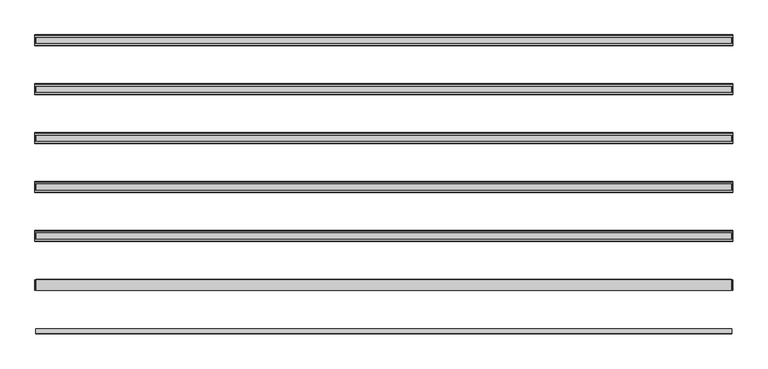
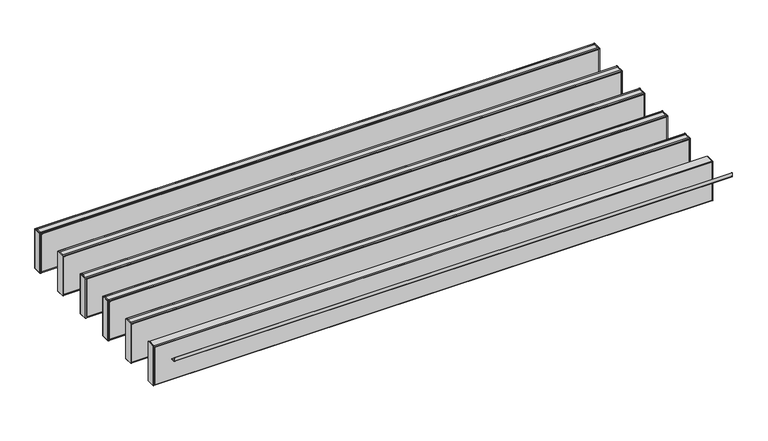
"""IFC4 building model written with IfcOpenShell, lengths in millimetres: proxy geometry, durlum_POLYLAM : durlum_POLYLAM 63 RV-L6."""

from ifc_helpers import new_model, si_unit, point, frame, frame_2d, origin, place, context, project, spatial, polyline, circle_curve, trimmed, segment, composite_curve, outline, extrude, source, transform, mapped, element, save
from ifc_brep_helpers import plane_surface, cylinder_surface, advanced_brep


def generic_models_28c25aac(model_context):
    return source(origin(), model_context, "Body", "SolidModel", [
        extrude(outline(composite_curve([segment(polyline([(2.0, 2079.9), (2.0, 2054.0)]), True, "CONTINUOUS"), segment(trimmed(circle_curve(frame_2d((4.0, 2054.0)), 2.0), [point((2.0, 2054.0))], [point((4.0, 2052.0))], True, "CARTESIAN"), True, "CONTINUOUS"), segment(polyline([(4.0, 2052.0), (29.9, 2052.0), (29.9, 2050.0), (4.0, 2050.0)]), True, "CONTINUOUS"), segment(trimmed(circle_curve(frame_2d((4.0, 2054.0)), 4.0), [point((4.0, 2050.0))], [point((0.0, 2054.0))], False, "CARTESIAN"), True, "CONTINUOUS"), segment(polyline([(0.0, 2054.0), (0.0, 2079.9), (2.0, 2079.9)]), True, "CONTINUOUS")], self_intersect=False)), frame((-1990.0, 0.0, 0.0), z_axis=(1.0, 0.0, 0.0), x_axis=(0.0, 1.0, 0.0)), (0.0, 0.0, 1.0), 3980.0),
        extrude(outline(polyline([(1993.0, 1710.5), (1995.0, 1710.5), (1995.0, 1649.5), (1993.0, 1649.5), (1993.0, 1710.5)])), frame((0.0, 0.0, 1717.9), z_axis=(0.0, 0.0, 1.0), x_axis=(1.0, 0.0, 0.0)), (0.0, 0.0, 1.0), 298.0),
        extrude(outline(polyline([(-1995.0, 1710.5), (-1993.0, 1710.5), (-1993.0, 1649.5), (-1995.0, 1649.5), (-1995.0, 1710.5)])), frame((0.0, 0.0, 1717.9), z_axis=(0.0, 0.0, 1.0), x_axis=(1.0, 0.0, 0.0)), (0.0, 0.0, 1.0), 298.0),
        extrude(outline(polyline([(1986.5, 1710.5), (1986.5, 1649.5), (-1986.5, 1649.5), (-1986.5, 1710.5), (1986.5, 1710.5)])), frame((0.0, 0.0, 1717.9), z_axis=(0.0, 0.0, 1.0), x_axis=(1.0, 0.0, 0.0)), (0.0, 0.0, 1.0), 298.0),
        extrude(outline(polyline([(1986.5, 1710.5), (-1986.5, 1710.5), (-1986.5, 1711.5), (1986.5, 1711.5), (1986.5, 1710.5)])), frame((0.0, 0.0, 1725.4), z_axis=(0.0, 0.0, 1.0), x_axis=(1.0, 0.0, 0.0)), (0.0, 0.0, 1.0), 283.0),
        extrude(outline(polyline([(1986.5, 1648.5), (-1986.5, 1648.5), (-1986.5, 1649.5), (1986.5, 1649.5), (1986.5, 1648.5)])), frame((0.0, 0.0, 1725.4), z_axis=(0.0, 0.0, 1.0), x_axis=(1.0, 0.0, 0.0)), (0.0, 0.0, 1.0), 283.0),
        advanced_brep(
        [(1995.0, 1709.5, 2016.9), (1995.0, 1699.5, 2016.9), (1995.0, 1699.5, 2015.9), (1995.0, 1710.5, 2015.9), (1995.0, 1710.5, 1717.9), (1995.0, 1649.5, 1717.9), (1995.0, 1649.5, 2015.8155735), (1995.0, 1660.5, 2015.8155735), (1995.0, 1660.5, 2016.9), (1995.0, 1650.5, 2016.9), (1995.0, 1648.5, 2014.9), (1995.0, 1648.5, 1718.9), (1995.0, 1650.5, 1716.9), (1995.0, 1709.5, 1716.9), (1995.0, 1711.5, 1718.9), (1995.0, 1711.5, 2014.9), (-1995.0, 1709.5, 2016.9), (-1995.0, 1711.5, 2014.9), (-1995.0, 1711.5, 1718.9), (-1995.0, 1709.5, 1716.9), (-1995.0, 1650.5, 1716.9), (-1995.0, 1648.5, 1718.9), (-1995.0, 1648.5, 2014.9), (-1995.0, 1650.5, 2016.9), (-1995.0, 1660.5, 2016.9), (-1995.0, 1660.5, 2015.8155735), (-1995.0, 1649.5, 2015.8155735), (-1995.0, 1649.5, 1717.9), (-1995.0, 1710.5, 1717.9), (-1995.0, 1710.5, 2015.9), (-1995.0, 1699.5, 2015.9), (-1995.0, 1699.5, 2016.9), (-1986.5, 1710.5, 2008.4), (1986.5, 1710.5, 2008.4), (1986.5, 1710.5, 1725.4), (-1986.5, 1710.5, 1725.4), (1986.5, 1649.5, 2008.4), (-1986.5, 1649.5, 2008.4), (-1986.5, 1649.5, 1725.4), (1986.5, 1649.5, 1725.4), (-1986.5, 1648.5, 2008.4), (1986.5, 1648.5, 2008.4), (1986.5, 1648.5, 1725.4), (-1986.5, 1648.5, 1725.4), (1986.5, 1711.5, 2008.4), (-1986.5, 1711.5, 2008.4), (-1986.5, 1711.5, 1725.4), (1986.5, 1711.5, 1725.4)],
        [
            (0, 1),
            (1, 2),
            (2, 3),
            (3, 4),
            (4, 5),
            (5, 6),
            (6, 7),
            (7, 8),
            (8, 9),
            (9, 10, circle_curve(frame((1995.0, 1650.5, 2014.9), z_axis=(1.0, 0.0, 0.0), x_axis=(0.0, 1.0, 0.0)), 2.0)),
            (10, 11),
            (11, 12, circle_curve(frame((1995.0, 1650.5, 1718.9), z_axis=(1.0, 0.0, 0.0), x_axis=(0.0, 1.0, 0.0)), 2.0)),
            (12, 13),
            (13, 14, circle_curve(frame((1995.0, 1709.5, 1718.9), z_axis=(1.0, 0.0, 0.0), x_axis=(0.0, 1.0, 0.0)), 2.0)),
            (14, 15),
            (15, 0, circle_curve(frame((1995.0, 1709.5, 2014.9), z_axis=(1.0, 0.0, 0.0), x_axis=(0.0, 1.0, 0.0)), 2.0)),
            (16, 17, circle_curve(frame((-1995.0, 1709.5, 2014.9), z_axis=(-1.0, 0.0, 0.0), x_axis=(0.0, 1.0, 0.0)), 2.0)),
            (17, 18),
            (18, 19, circle_curve(frame((-1995.0, 1709.5, 1718.9), z_axis=(-1.0, 0.0, 0.0), x_axis=(0.0, 1.0, 0.0)), 2.0)),
            (19, 20),
            (20, 21, circle_curve(frame((-1995.0, 1650.5, 1718.9), z_axis=(-1.0, 0.0, 0.0), x_axis=(0.0, 1.0, 0.0)), 2.0)),
            (21, 22),
            (22, 23, circle_curve(frame((-1995.0, 1650.5, 2014.9), z_axis=(-1.0, 0.0, 0.0), x_axis=(0.0, 1.0, 0.0)), 2.0)),
            (23, 24),
            (24, 25),
            (25, 26),
            (26, 27),
            (27, 28),
            (28, 29),
            (29, 30),
            (30, 31),
            (31, 16),
            (0, 16),
            (31, 1),
            (30, 2),
            (29, 3),
            (28, 4),
            (32, 33),
            (33, 34),
            (34, 35),
            (35, 32),
            (27, 5),
            (26, 6),
            (36, 37),
            (37, 38),
            (38, 39),
            (39, 36),
            (25, 7),
            (24, 8),
            (23, 9),
            (10, 22),
            (21, 11),
            (40, 41),
            (41, 42),
            (42, 43),
            (43, 40),
            (12, 20),
            (19, 13),
            (14, 18),
            (17, 15),
            (44, 45),
            (45, 46),
            (46, 47),
            (47, 44),
            (44, 33),
            (32, 45),
            (36, 41),
            (40, 37),
            (35, 46),
            (43, 38),
            (34, 47),
            (42, 39),
        ],
        [
            plane_surface(frame((1995.0, 1699.5, 2016.9), z_axis=(1.0, 0.0, 0.0), x_axis=(0.0, -1.0, 0.0))),
            plane_surface(frame((-1995.0, 1699.5, 2016.9), z_axis=(-1.0, 0.0, 0.0), x_axis=(0.0, 1.0, 0.0))),
            plane_surface(frame((1995.0, 1709.5, 2016.9), z_axis=(0.0, 0.0, 1.0), x_axis=(-1.0, 0.0, 0.0))),
            plane_surface(frame((1995.0, 1699.5, 2016.9), z_axis=(0.0, -1.0, 0.0), x_axis=(-1.0, 0.0, 0.0))),
            plane_surface(frame((1995.0, 1699.5, 2015.9), z_axis=(0.0, 0.0, -1.0), x_axis=(-1.0, 0.0, 0.0))),
            plane_surface(frame((1995.0, 1710.5, 2015.9), z_axis=(0.0, -1.0, 0.0), x_axis=(-1.0, 0.0, 0.0))),
            plane_surface(frame((1995.0, 1710.5, 1717.9), z_axis=(0.0, 0.0, 1.0), x_axis=(-1.0, 0.0, 0.0))),
            plane_surface(frame((1995.0, 1649.5, 1717.9), z_axis=(0.0, 1.0, 0.0), x_axis=(-1.0, 0.0, 0.0))),
            plane_surface(frame((1995.0, 1649.5, 2015.8155735), z_axis=(0.0, 0.0, -1.0), x_axis=(-1.0, 0.0, 0.0))),
            plane_surface(frame((1995.0, 1660.5, 2015.8155735), z_axis=(0.0, 1.0, 0.0), x_axis=(-1.0, 0.0, 0.0))),
            plane_surface(frame((1995.0, 1660.5, 2016.9), z_axis=(0.0, 0.0, 1.0), x_axis=(-1.0, 0.0, 0.0))),
            plane_surface(frame((1995.0, 1648.5, 2014.9), z_axis=(0.0, -1.0, 0.0), x_axis=(-1.0, 0.0, 0.0))),
            plane_surface(frame((1995.0, 1650.5, 1716.9), z_axis=(0.0, 0.0, -1.0), x_axis=(-1.0, 0.0, 0.0))),
            plane_surface(frame((1995.0, 1711.5, 1718.9), z_axis=(0.0, 1.0, 0.0), x_axis=(-1.0, 0.0, 0.0))),
            cylinder_surface(frame((-1995.0, 1650.5, 2014.9), z_axis=(1.0, 0.0, 0.0), x_axis=(0.0, 1.0, 0.0)), 2.0),
            cylinder_surface(frame((-1995.0, 1650.5, 1718.9), z_axis=(1.0, 0.0, 0.0), x_axis=(0.0, 1.0, 0.0)), 2.0),
            cylinder_surface(frame((-1995.0, 1709.5, 1718.9), z_axis=(1.0, 0.0, 0.0), x_axis=(0.0, 1.0, 0.0)), 2.0),
            cylinder_surface(frame((-1995.0, 1709.5, 2014.9), z_axis=(1.0, 0.0, 0.0), x_axis=(0.0, 1.0, 0.0)), 2.0),
            plane_surface(frame((1986.5, 1648.5, 2008.4), z_axis=(0.0, 0.0, -1.0), x_axis=(0.0, 1.0, 0.0))),
            plane_surface(frame((-1986.5, 1648.5, 2008.4), z_axis=(1.0, 0.0, 0.0), x_axis=(0.0, 1.0, 0.0))),
            plane_surface(frame((-1986.5, 1648.5, 1725.4), z_axis=(0.0, 0.0, 1.0), x_axis=(0.0, 1.0, 0.0))),
            plane_surface(frame((1986.5, 1648.5, 1725.4), z_axis=(-1.0, 0.0, 0.0), x_axis=(0.0, 1.0, 0.0))),
        ],
        [
            (0, [[1, 2, 3, 4, 5, 6, 7, 8, 9, 10, 11, 12, 13, 14, 15, 16]]),
            (1, [[17, 18, 19, 20, 21, 22, 23, 24, 25, 26, 27, 28, 29, 30, 31, 32]]),
            (2, [[-1, 33, -32, 34]]),
            (3, [[-2, -34, -31, 35]]),
            (4, [[-3, -35, -30, 36]]),
            (5, [[-4, -36, -29, 37], [38, 39, 40, 41]]),
            (6, [[-5, -37, -28, 42]]),
            (7, [[-6, -42, -27, 43], [44, 45, 46, 47]]),
            (8, [[-7, -43, -26, 48]]),
            (9, [[-8, -48, -25, 49]]),
            (10, [[-9, -49, -24, 50]]),
            (11, [[-11, 51, -22, 52], [53, 54, 55, 56]]),
            (12, [[-13, 57, -20, 58]]),
            (13, [[-15, 59, -18, 60], [61, 62, 63, 64]]),
            (14, [[-10, -50, -23, -51]]),
            (15, [[-12, -52, -21, -57]]),
            (16, [[-14, -58, -19, -59]]),
            (17, [[-16, -60, -17, -33]]),
            (18, [[65, -38, 66, -61]]),
            (18, [[67, -53, 68, -44]]),
            (19, [[-66, -41, 69, -62]]),
            (19, [[-68, -56, 70, -45]]),
            (20, [[-69, -40, 71, -63]]),
            (20, [[-70, -55, 72, -46]]),
            (21, [[-65, -64, -71, -39]]),
            (21, [[-67, -47, -72, -54]]),
        ],
    ),
        extrude(outline(polyline([(1993.0, 1430.5), (1995.0, 1430.5), (1995.0, 1369.5), (1993.0, 1369.5), (1993.0, 1430.5)])), frame((0.0, 0.0, 1717.9), z_axis=(0.0, 0.0, 1.0), x_axis=(1.0, 0.0, 0.0)), (0.0, 0.0, 1.0), 298.0),
        extrude(outline(polyline([(-1995.0, 1430.5), (-1993.0, 1430.5), (-1993.0, 1369.5), (-1995.0, 1369.5), (-1995.0, 1430.5)])), frame((0.0, 0.0, 1717.9), z_axis=(0.0, 0.0, 1.0), x_axis=(1.0, 0.0, 0.0)), (0.0, 0.0, 1.0), 298.0),
        extrude(outline(polyline([(1986.5, 1430.5), (1986.5, 1369.5), (-1986.5, 1369.5), (-1986.5, 1430.5), (1986.5, 1430.5)])), frame((0.0, 0.0, 1717.9), z_axis=(0.0, 0.0, 1.0), x_axis=(1.0, 0.0, 0.0)), (0.0, 0.0, 1.0), 298.0),
        extrude(outline(polyline([(1986.5, 1430.5), (-1986.5, 1430.5), (-1986.5, 1431.5), (1986.5, 1431.5), (1986.5, 1430.5)])), frame((0.0, 0.0, 1725.4), z_axis=(0.0, 0.0, 1.0), x_axis=(1.0, 0.0, 0.0)), (0.0, 0.0, 1.0), 283.0),
        extrude(outline(polyline([(1986.5, 1368.5), (-1986.5, 1368.5), (-1986.5, 1369.5), (1986.5, 1369.5), (1986.5, 1368.5)])), frame((0.0, 0.0, 1725.4), z_axis=(0.0, 0.0, 1.0), x_axis=(1.0, 0.0, 0.0)), (0.0, 0.0, 1.0), 283.0),
        advanced_brep(
        [(1995.0, 1429.5, 2016.9), (1995.0, 1419.5, 2016.9), (1995.0, 1419.5, 2015.9), (1995.0, 1430.5, 2015.9), (1995.0, 1430.5, 1717.9), (1995.0, 1369.5, 1717.9), (1995.0, 1369.5, 2015.8155735), (1995.0, 1380.5, 2015.8155735), (1995.0, 1380.5, 2016.9), (1995.0, 1370.5, 2016.9), (1995.0, 1368.5, 2014.9), (1995.0, 1368.5, 1718.9), (1995.0, 1370.5, 1716.9), (1995.0, 1429.5, 1716.9), (1995.0, 1431.5, 1718.9), (1995.0, 1431.5, 2014.9), (-1995.0, 1429.5, 2016.9), (-1995.0, 1431.5, 2014.9), (-1995.0, 1431.5, 1718.9), (-1995.0, 1429.5, 1716.9), (-1995.0, 1370.5, 1716.9), (-1995.0, 1368.5, 1718.9), (-1995.0, 1368.5, 2014.9), (-1995.0, 1370.5, 2016.9), (-1995.0, 1380.5, 2016.9), (-1995.0, 1380.5, 2015.8155735), (-1995.0, 1369.5, 2015.8155735), (-1995.0, 1369.5, 1717.9), (-1995.0, 1430.5, 1717.9), (-1995.0, 1430.5, 2015.9), (-1995.0, 1419.5, 2015.9), (-1995.0, 1419.5, 2016.9), (-1986.5, 1430.5, 2008.4), (1986.5, 1430.5, 2008.4), (1986.5, 1430.5, 1725.4), (-1986.5, 1430.5, 1725.4), (1986.5, 1369.5, 2008.4), (-1986.5, 1369.5, 2008.4), (-1986.5, 1369.5, 1725.4), (1986.5, 1369.5, 1725.4), (-1986.5, 1368.5, 2008.4), (1986.5, 1368.5, 2008.4), (1986.5, 1368.5, 1725.4), (-1986.5, 1368.5, 1725.4), (1986.5, 1431.5, 2008.4), (-1986.5, 1431.5, 2008.4), (-1986.5, 1431.5, 1725.4), (1986.5, 1431.5, 1725.4)],
        [
            (0, 1),
            (1, 2),
            (2, 3),
            (3, 4),
            (4, 5),
            (5, 6),
            (6, 7),
            (7, 8),
            (8, 9),
            (9, 10, circle_curve(frame((1995.0, 1370.5, 2014.9), z_axis=(1.0, 0.0, 0.0), x_axis=(0.0, 1.0, 0.0)), 2.0)),
            (10, 11),
            (11, 12, circle_curve(frame((1995.0, 1370.5, 1718.9), z_axis=(1.0, 0.0, 0.0), x_axis=(0.0, 1.0, 0.0)), 2.0)),
            (12, 13),
            (13, 14, circle_curve(frame((1995.0, 1429.5, 1718.9), z_axis=(1.0, 0.0, 0.0), x_axis=(0.0, 1.0, 0.0)), 2.0)),
            (14, 15),
            (15, 0, circle_curve(frame((1995.0, 1429.5, 2014.9), z_axis=(1.0, 0.0, 0.0), x_axis=(0.0, 1.0, 0.0)), 2.0)),
            (16, 17, circle_curve(frame((-1995.0, 1429.5, 2014.9), z_axis=(-1.0, 0.0, 0.0), x_axis=(0.0, 1.0, 0.0)), 2.0)),
            (17, 18),
            (18, 19, circle_curve(frame((-1995.0, 1429.5, 1718.9), z_axis=(-1.0, 0.0, 0.0), x_axis=(0.0, 1.0, 0.0)), 2.0)),
            (19, 20),
            (20, 21, circle_curve(frame((-1995.0, 1370.5, 1718.9), z_axis=(-1.0, 0.0, 0.0), x_axis=(0.0, 1.0, 0.0)), 2.0)),
            (21, 22),
            (22, 23, circle_curve(frame((-1995.0, 1370.5, 2014.9), z_axis=(-1.0, 0.0, 0.0), x_axis=(0.0, 1.0, 0.0)), 2.0)),
            (23, 24),
            (24, 25),
            (25, 26),
            (26, 27),
            (27, 28),
            (28, 29),
            (29, 30),
            (30, 31),
            (31, 16),
            (0, 16),
            (31, 1),
            (30, 2),
            (29, 3),
            (28, 4),
            (32, 33),
            (33, 34),
            (34, 35),
            (35, 32),
            (27, 5),
            (26, 6),
            (36, 37),
            (37, 38),
            (38, 39),
            (39, 36),
            (25, 7),
            (24, 8),
            (23, 9),
            (10, 22),
            (21, 11),
            (40, 41),
            (41, 42),
            (42, 43),
            (43, 40),
            (12, 20),
            (19, 13),
            (14, 18),
            (17, 15),
            (44, 45),
            (45, 46),
            (46, 47),
            (47, 44),
            (44, 33),
            (32, 45),
            (36, 41),
            (40, 37),
            (35, 46),
            (43, 38),
            (34, 47),
            (42, 39),
        ],
        [
            plane_surface(frame((1995.0, 1419.5, 2016.9), z_axis=(1.0, 0.0, 0.0), x_axis=(0.0, -1.0, 0.0))),
            plane_surface(frame((-1995.0, 1419.5, 2016.9), z_axis=(-1.0, 0.0, 0.0), x_axis=(0.0, 1.0, 0.0))),
            plane_surface(frame((1995.0, 1429.5, 2016.9), z_axis=(0.0, 0.0, 1.0), x_axis=(-1.0, 0.0, 0.0))),
            plane_surface(frame((1995.0, 1419.5, 2016.9), z_axis=(0.0, -1.0, 0.0), x_axis=(-1.0, 0.0, 0.0))),
            plane_surface(frame((1995.0, 1419.5, 2015.9), z_axis=(0.0, 0.0, -1.0), x_axis=(-1.0, 0.0, 0.0))),
            plane_surface(frame((1995.0, 1430.5, 2015.9), z_axis=(0.0, -1.0, 0.0), x_axis=(-1.0, 0.0, 0.0))),
            plane_surface(frame((1995.0, 1430.5, 1717.9), z_axis=(0.0, 0.0, 1.0), x_axis=(-1.0, 0.0, 0.0))),
            plane_surface(frame((1995.0, 1369.5, 1717.9), z_axis=(0.0, 1.0, 0.0), x_axis=(-1.0, 0.0, 0.0))),
            plane_surface(frame((1995.0, 1369.5, 2015.8155735), z_axis=(0.0, 0.0, -1.0), x_axis=(-1.0, 0.0, 0.0))),
            plane_surface(frame((1995.0, 1380.5, 2015.8155735), z_axis=(0.0, 1.0, 0.0), x_axis=(-1.0, 0.0, 0.0))),
            plane_surface(frame((1995.0, 1380.5, 2016.9), z_axis=(0.0, 0.0, 1.0), x_axis=(-1.0, 0.0, 0.0))),
            plane_surface(frame((1995.0, 1368.5, 2014.9), z_axis=(0.0, -1.0, 0.0), x_axis=(-1.0, 0.0, 0.0))),
            plane_surface(frame((1995.0, 1370.5, 1716.9), z_axis=(0.0, 0.0, -1.0), x_axis=(-1.0, 0.0, 0.0))),
            plane_surface(frame((1995.0, 1431.5, 1718.9), z_axis=(0.0, 1.0, 0.0), x_axis=(-1.0, 0.0, 0.0))),
            cylinder_surface(frame((-1995.0, 1370.5, 2014.9), z_axis=(1.0, 0.0, 0.0), x_axis=(0.0, 1.0, 0.0)), 2.0),
            cylinder_surface(frame((-1995.0, 1370.5, 1718.9), z_axis=(1.0, 0.0, 0.0), x_axis=(0.0, 1.0, 0.0)), 2.0),
            cylinder_surface(frame((-1995.0, 1429.5, 1718.9), z_axis=(1.0, 0.0, 0.0), x_axis=(0.0, 1.0, 0.0)), 2.0),
            cylinder_surface(frame((-1995.0, 1429.5, 2014.9), z_axis=(1.0, 0.0, 0.0), x_axis=(0.0, 1.0, 0.0)), 2.0),
            plane_surface(frame((1986.5, 1368.5, 2008.4), z_axis=(0.0, 0.0, -1.0), x_axis=(0.0, 1.0, 0.0))),
            plane_surface(frame((-1986.5, 1368.5, 2008.4), z_axis=(1.0, 0.0, 0.0), x_axis=(0.0, 1.0, 0.0))),
            plane_surface(frame((-1986.5, 1368.5, 1725.4), z_axis=(0.0, 0.0, 1.0), x_axis=(0.0, 1.0, 0.0))),
            plane_surface(frame((1986.5, 1368.5, 1725.4), z_axis=(-1.0, 0.0, 0.0), x_axis=(0.0, 1.0, 0.0))),
        ],
        [
            (0, [[1, 2, 3, 4, 5, 6, 7, 8, 9, 10, 11, 12, 13, 14, 15, 16]]),
            (1, [[17, 18, 19, 20, 21, 22, 23, 24, 25, 26, 27, 28, 29, 30, 31, 32]]),
            (2, [[-1, 33, -32, 34]]),
            (3, [[-2, -34, -31, 35]]),
            (4, [[-3, -35, -30, 36]]),
            (5, [[-4, -36, -29, 37], [38, 39, 40, 41]]),
            (6, [[-5, -37, -28, 42]]),
            (7, [[-6, -42, -27, 43], [44, 45, 46, 47]]),
            (8, [[-7, -43, -26, 48]]),
            (9, [[-8, -48, -25, 49]]),
            (10, [[-9, -49, -24, 50]]),
            (11, [[-11, 51, -22, 52], [53, 54, 55, 56]]),
            (12, [[-13, 57, -20, 58]]),
            (13, [[-15, 59, -18, 60], [61, 62, 63, 64]]),
            (14, [[-10, -50, -23, -51]]),
            (15, [[-12, -52, -21, -57]]),
            (16, [[-14, -58, -19, -59]]),
            (17, [[-16, -60, -17, -33]]),
            (18, [[65, -38, 66, -61]]),
            (18, [[67, -53, 68, -44]]),
            (19, [[-66, -41, 69, -62]]),
            (19, [[-68, -56, 70, -45]]),
            (20, [[-69, -40, 71, -63]]),
            (20, [[-70, -55, 72, -46]]),
            (21, [[-65, -64, -71, -39]]),
            (21, [[-67, -47, -72, -54]]),
        ],
    ),
        extrude(outline(polyline([(1993.0, 1150.5), (1995.0, 1150.5), (1995.0, 1089.5), (1993.0, 1089.5), (1993.0, 1150.5)])), frame((0.0, 0.0, 1717.9), z_axis=(0.0, 0.0, 1.0), x_axis=(1.0, 0.0, 0.0)), (0.0, 0.0, 1.0), 298.0),
        extrude(outline(polyline([(-1995.0, 1150.5), (-1993.0, 1150.5), (-1993.0, 1089.5), (-1995.0, 1089.5), (-1995.0, 1150.5)])), frame((0.0, 0.0, 1717.9), z_axis=(0.0, 0.0, 1.0), x_axis=(1.0, 0.0, 0.0)), (0.0, 0.0, 1.0), 298.0),
        extrude(outline(polyline([(1986.5, 1150.5), (1986.5, 1089.5), (-1986.5, 1089.5), (-1986.5, 1150.5), (1986.5, 1150.5)])), frame((0.0, 0.0, 1717.9), z_axis=(0.0, 0.0, 1.0), x_axis=(1.0, 0.0, 0.0)), (0.0, 0.0, 1.0), 298.0),
        extrude(outline(polyline([(1986.5, 1150.5), (-1986.5, 1150.5), (-1986.5, 1151.5), (1986.5, 1151.5), (1986.5, 1150.5)])), frame((0.0, 0.0, 1725.4), z_axis=(0.0, 0.0, 1.0), x_axis=(1.0, 0.0, 0.0)), (0.0, 0.0, 1.0), 283.0),
        extrude(outline(polyline([(1986.5, 1088.5), (-1986.5, 1088.5), (-1986.5, 1089.5), (1986.5, 1089.5), (1986.5, 1088.5)])), frame((0.0, 0.0, 1725.4), z_axis=(0.0, 0.0, 1.0), x_axis=(1.0, 0.0, 0.0)), (0.0, 0.0, 1.0), 283.0),
        advanced_brep(
        [(1995.0, 1149.5, 2016.9), (1995.0, 1139.5, 2016.9), (1995.0, 1139.5, 2015.9), (1995.0, 1150.5, 2015.9), (1995.0, 1150.5, 1717.9), (1995.0, 1089.5, 1717.9), (1995.0, 1089.5, 2015.8155735), (1995.0, 1100.5, 2015.8155735), (1995.0, 1100.5, 2016.9), (1995.0, 1090.5, 2016.9), (1995.0, 1088.5, 2014.9), (1995.0, 1088.5, 1718.9), (1995.0, 1090.5, 1716.9), (1995.0, 1149.5, 1716.9), (1995.0, 1151.5, 1718.9), (1995.0, 1151.5, 2014.9), (-1995.0, 1149.5, 2016.9), (-1995.0, 1151.5, 2014.9), (-1995.0, 1151.5, 1718.9), (-1995.0, 1149.5, 1716.9), (-1995.0, 1090.5, 1716.9), (-1995.0, 1088.5, 1718.9), (-1995.0, 1088.5, 2014.9), (-1995.0, 1090.5, 2016.9), (-1995.0, 1100.5, 2016.9), (-1995.0, 1100.5, 2015.8155735), (-1995.0, 1089.5, 2015.8155735), (-1995.0, 1089.5, 1717.9), (-1995.0, 1150.5, 1717.9), (-1995.0, 1150.5, 2015.9), (-1995.0, 1139.5, 2015.9), (-1995.0, 1139.5, 2016.9), (-1986.5, 1150.5, 2008.4), (1986.5, 1150.5, 2008.4), (1986.5, 1150.5, 1725.4), (-1986.5, 1150.5, 1725.4), (1986.5, 1089.5, 2008.4), (-1986.5, 1089.5, 2008.4), (-1986.5, 1089.5, 1725.4), (1986.5, 1089.5, 1725.4), (-1986.5, 1088.5, 2008.4), (1986.5, 1088.5, 2008.4), (1986.5, 1088.5, 1725.4), (-1986.5, 1088.5, 1725.4), (1986.5, 1151.5, 2008.4), (-1986.5, 1151.5, 2008.4), (-1986.5, 1151.5, 1725.4), (1986.5, 1151.5, 1725.4)],
        [
            (0, 1),
            (1, 2),
            (2, 3),
            (3, 4),
            (4, 5),
            (5, 6),
            (6, 7),
            (7, 8),
            (8, 9),
            (9, 10, circle_curve(frame((1995.0, 1090.5, 2014.9), z_axis=(1.0, 0.0, 0.0), x_axis=(0.0, 1.0, 0.0)), 2.0)),
            (10, 11),
            (11, 12, circle_curve(frame((1995.0, 1090.5, 1718.9), z_axis=(1.0, 0.0, 0.0), x_axis=(0.0, 1.0, 0.0)), 2.0)),
            (12, 13),
            (13, 14, circle_curve(frame((1995.0, 1149.5, 1718.9), z_axis=(1.0, 0.0, 0.0), x_axis=(0.0, 1.0, 0.0)), 2.0)),
            (14, 15),
            (15, 0, circle_curve(frame((1995.0, 1149.5, 2014.9), z_axis=(1.0, 0.0, 0.0), x_axis=(0.0, 1.0, 0.0)), 2.0)),
            (16, 17, circle_curve(frame((-1995.0, 1149.5, 2014.9), z_axis=(-1.0, 0.0, 0.0), x_axis=(0.0, 1.0, 0.0)), 2.0)),
            (17, 18),
            (18, 19, circle_curve(frame((-1995.0, 1149.5, 1718.9), z_axis=(-1.0, 0.0, 0.0), x_axis=(0.0, 1.0, 0.0)), 2.0)),
            (19, 20),
            (20, 21, circle_curve(frame((-1995.0, 1090.5, 1718.9), z_axis=(-1.0, 0.0, 0.0), x_axis=(0.0, 1.0, 0.0)), 2.0)),
            (21, 22),
            (22, 23, circle_curve(frame((-1995.0, 1090.5, 2014.9), z_axis=(-1.0, 0.0, 0.0), x_axis=(0.0, 1.0, 0.0)), 2.0)),
            (23, 24),
            (24, 25),
            (25, 26),
            (26, 27),
            (27, 28),
            (28, 29),
            (29, 30),
            (30, 31),
            (31, 16),
            (0, 16),
            (31, 1),
            (30, 2),
            (29, 3),
            (28, 4),
            (32, 33),
            (33, 34),
            (34, 35),
            (35, 32),
            (27, 5),
            (26, 6),
            (36, 37),
            (37, 38),
            (38, 39),
            (39, 36),
            (25, 7),
            (24, 8),
            (23, 9),
            (10, 22),
            (21, 11),
            (40, 41),
            (41, 42),
            (42, 43),
            (43, 40),
            (12, 20),
            (19, 13),
            (14, 18),
            (17, 15),
            (44, 45),
            (45, 46),
            (46, 47),
            (47, 44),
            (44, 33),
            (32, 45),
            (36, 41),
            (40, 37),
            (35, 46),
            (43, 38),
            (34, 47),
            (42, 39),
        ],
        [
            plane_surface(frame((1995.0, 1139.5, 2016.9), z_axis=(1.0, 0.0, 0.0), x_axis=(0.0, -1.0, 0.0))),
            plane_surface(frame((-1995.0, 1139.5, 2016.9), z_axis=(-1.0, 0.0, 0.0), x_axis=(0.0, 1.0, 0.0))),
            plane_surface(frame((1995.0, 1149.5, 2016.9), z_axis=(0.0, 0.0, 1.0), x_axis=(-1.0, 0.0, 0.0))),
            plane_surface(frame((1995.0, 1139.5, 2016.9), z_axis=(0.0, -1.0, 0.0), x_axis=(-1.0, 0.0, 0.0))),
            plane_surface(frame((1995.0, 1139.5, 2015.9), z_axis=(0.0, 0.0, -1.0), x_axis=(-1.0, 0.0, 0.0))),
            plane_surface(frame((1995.0, 1150.5, 2015.9), z_axis=(0.0, -1.0, 0.0), x_axis=(-1.0, 0.0, 0.0))),
            plane_surface(frame((1995.0, 1150.5, 1717.9), z_axis=(0.0, 0.0, 1.0), x_axis=(-1.0, 0.0, 0.0))),
            plane_surface(frame((1995.0, 1089.5, 1717.9), z_axis=(0.0, 1.0, 0.0), x_axis=(-1.0, 0.0, 0.0))),
            plane_surface(frame((1995.0, 1089.5, 2015.8155735), z_axis=(0.0, 0.0, -1.0), x_axis=(-1.0, 0.0, 0.0))),
            plane_surface(frame((1995.0, 1100.5, 2015.8155735), z_axis=(0.0, 1.0, 0.0), x_axis=(-1.0, 0.0, 0.0))),
            plane_surface(frame((1995.0, 1100.5, 2016.9), z_axis=(0.0, 0.0, 1.0), x_axis=(-1.0, 0.0, 0.0))),
            plane_surface(frame((1995.0, 1088.5, 2014.9), z_axis=(0.0, -1.0, 0.0), x_axis=(-1.0, 0.0, 0.0))),
            plane_surface(frame((1995.0, 1090.5, 1716.9), z_axis=(0.0, 0.0, -1.0), x_axis=(-1.0, 0.0, 0.0))),
            plane_surface(frame((1995.0, 1151.5, 1718.9), z_axis=(0.0, 1.0, 0.0), x_axis=(-1.0, 0.0, 0.0))),
            cylinder_surface(frame((-1995.0, 1090.5, 2014.9), z_axis=(1.0, 0.0, 0.0), x_axis=(0.0, 1.0, 0.0)), 2.0),
            cylinder_surface(frame((-1995.0, 1090.5, 1718.9), z_axis=(1.0, 0.0, 0.0), x_axis=(0.0, 1.0, 0.0)), 2.0),
            cylinder_surface(frame((-1995.0, 1149.5, 1718.9), z_axis=(1.0, 0.0, 0.0), x_axis=(0.0, 1.0, 0.0)), 2.0),
            cylinder_surface(frame((-1995.0, 1149.5, 2014.9), z_axis=(1.0, 0.0, 0.0), x_axis=(0.0, 1.0, 0.0)), 2.0),
            plane_surface(frame((1986.5, 1088.5, 2008.4), z_axis=(0.0, 0.0, -1.0), x_axis=(0.0, 1.0, 0.0))),
            plane_surface(frame((-1986.5, 1088.5, 2008.4), z_axis=(1.0, 0.0, 0.0), x_axis=(0.0, 1.0, 0.0))),
            plane_surface(frame((-1986.5, 1088.5, 1725.4), z_axis=(0.0, 0.0, 1.0), x_axis=(0.0, 1.0, 0.0))),
            plane_surface(frame((1986.5, 1088.5, 1725.4), z_axis=(-1.0, 0.0, 0.0), x_axis=(0.0, 1.0, 0.0))),
        ],
        [
            (0, [[1, 2, 3, 4, 5, 6, 7, 8, 9, 10, 11, 12, 13, 14, 15, 16]]),
            (1, [[17, 18, 19, 20, 21, 22, 23, 24, 25, 26, 27, 28, 29, 30, 31, 32]]),
            (2, [[-1, 33, -32, 34]]),
            (3, [[-2, -34, -31, 35]]),
            (4, [[-3, -35, -30, 36]]),
            (5, [[-4, -36, -29, 37], [38, 39, 40, 41]]),
            (6, [[-5, -37, -28, 42]]),
            (7, [[-6, -42, -27, 43], [44, 45, 46, 47]]),
            (8, [[-7, -43, -26, 48]]),
            (9, [[-8, -48, -25, 49]]),
            (10, [[-9, -49, -24, 50]]),
            (11, [[-11, 51, -22, 52], [53, 54, 55, 56]]),
            (12, [[-13, 57, -20, 58]]),
            (13, [[-15, 59, -18, 60], [61, 62, 63, 64]]),
            (14, [[-10, -50, -23, -51]]),
            (15, [[-12, -52, -21, -57]]),
            (16, [[-14, -58, -19, -59]]),
            (17, [[-16, -60, -17, -33]]),
            (18, [[65, -38, 66, -61]]),
            (18, [[67, -53, 68, -44]]),
            (19, [[-66, -41, 69, -62]]),
            (19, [[-68, -56, 70, -45]]),
            (20, [[-69, -40, 71, -63]]),
            (20, [[-70, -55, 72, -46]]),
            (21, [[-65, -64, -71, -39]]),
            (21, [[-67, -47, -72, -54]]),
        ],
    ),
        extrude(outline(polyline([(1993.0, 870.5), (1995.0, 870.5), (1995.0, 809.5), (1993.0, 809.5), (1993.0, 870.5)])), frame((0.0, 0.0, 1717.9), z_axis=(0.0, 0.0, 1.0), x_axis=(1.0, 0.0, 0.0)), (0.0, 0.0, 1.0), 298.0),
        extrude(outline(polyline([(-1995.0, 870.5), (-1993.0, 870.5), (-1993.0, 809.5), (-1995.0, 809.5), (-1995.0, 870.5)])), frame((0.0, 0.0, 1717.9), z_axis=(0.0, 0.0, 1.0), x_axis=(1.0, 0.0, 0.0)), (0.0, 0.0, 1.0), 298.0),
        extrude(outline(polyline([(1986.5, 870.5), (1986.5, 809.5), (-1986.5, 809.5), (-1986.5, 870.5), (1986.5, 870.5)])), frame((0.0, 0.0, 1717.9), z_axis=(0.0, 0.0, 1.0), x_axis=(1.0, 0.0, 0.0)), (0.0, 0.0, 1.0), 298.0),
        extrude(outline(polyline([(1986.5, 870.5), (-1986.5, 870.5), (-1986.5, 871.5), (1986.5, 871.5), (1986.5, 870.5)])), frame((0.0, 0.0, 1725.4), z_axis=(0.0, 0.0, 1.0), x_axis=(1.0, 0.0, 0.0)), (0.0, 0.0, 1.0), 283.0),
        extrude(outline(polyline([(1986.5, 808.5), (-1986.5, 808.5), (-1986.5, 809.5), (1986.5, 809.5), (1986.5, 808.5)])), frame((0.0, 0.0, 1725.4), z_axis=(0.0, 0.0, 1.0), x_axis=(1.0, 0.0, 0.0)), (0.0, 0.0, 1.0), 283.0),
        advanced_brep(
        [(1995.0, 869.5, 2016.9), (1995.0, 859.5, 2016.9), (1995.0, 859.5, 2015.9), (1995.0, 870.5, 2015.9), (1995.0, 870.5, 1717.9), (1995.0, 809.5, 1717.9), (1995.0, 809.5, 2015.8155735), (1995.0, 820.5, 2015.8155735), (1995.0, 820.5, 2016.9), (1995.0, 810.5, 2016.9), (1995.0, 808.5, 2014.9), (1995.0, 808.5, 1718.9), (1995.0, 810.5, 1716.9), (1995.0, 869.5, 1716.9), (1995.0, 871.5, 1718.9), (1995.0, 871.5, 2014.9), (-1995.0, 869.5, 2016.9), (-1995.0, 871.5, 2014.9), (-1995.0, 871.5, 1718.9), (-1995.0, 869.5, 1716.9), (-1995.0, 810.5, 1716.9), (-1995.0, 808.5, 1718.9), (-1995.0, 808.5, 2014.9), (-1995.0, 810.5, 2016.9), (-1995.0, 820.5, 2016.9), (-1995.0, 820.5, 2015.8155735), (-1995.0, 809.5, 2015.8155735), (-1995.0, 809.5, 1717.9), (-1995.0, 870.5, 1717.9), (-1995.0, 870.5, 2015.9), (-1995.0, 859.5, 2015.9), (-1995.0, 859.5, 2016.9), (-1986.5, 870.5, 2008.4), (1986.5, 870.5, 2008.4), (1986.5, 870.5, 1725.4), (-1986.5, 870.5, 1725.4), (1986.5, 809.5, 2008.4), (-1986.5, 809.5, 2008.4), (-1986.5, 809.5, 1725.4), (1986.5, 809.5, 1725.4), (-1986.5, 808.5, 2008.4), (1986.5, 808.5, 2008.4), (1986.5, 808.5, 1725.4), (-1986.5, 808.5, 1725.4), (1986.5, 871.5, 2008.4), (-1986.5, 871.5, 2008.4), (-1986.5, 871.5, 1725.4), (1986.5, 871.5, 1725.4)],
        [
            (0, 1),
            (1, 2),
            (2, 3),
            (3, 4),
            (4, 5),
            (5, 6),
            (6, 7),
            (7, 8),
            (8, 9),
            (9, 10, circle_curve(frame((1995.0, 810.5, 2014.9), z_axis=(1.0, 0.0, 0.0), x_axis=(0.0, 1.0, 0.0)), 2.0)),
            (10, 11),
            (11, 12, circle_curve(frame((1995.0, 810.5, 1718.9), z_axis=(1.0, 0.0, 0.0), x_axis=(0.0, 1.0, 0.0)), 2.0)),
            (12, 13),
            (13, 14, circle_curve(frame((1995.0, 869.5, 1718.9), z_axis=(1.0, 0.0, 0.0), x_axis=(0.0, 1.0, 0.0)), 2.0)),
            (14, 15),
            (15, 0, circle_curve(frame((1995.0, 869.5, 2014.9), z_axis=(1.0, 0.0, 0.0), x_axis=(0.0, 1.0, 0.0)), 2.0)),
            (16, 17, circle_curve(frame((-1995.0, 869.5, 2014.9), z_axis=(-1.0, 0.0, 0.0), x_axis=(0.0, 1.0, 0.0)), 2.0)),
            (17, 18),
            (18, 19, circle_curve(frame((-1995.0, 869.5, 1718.9), z_axis=(-1.0, 0.0, 0.0), x_axis=(0.0, 1.0, 0.0)), 2.0)),
            (19, 20),
            (20, 21, circle_curve(frame((-1995.0, 810.5, 1718.9), z_axis=(-1.0, 0.0, 0.0), x_axis=(0.0, 1.0, 0.0)), 2.0)),
            (21, 22),
            (22, 23, circle_curve(frame((-1995.0, 810.5, 2014.9), z_axis=(-1.0, 0.0, 0.0), x_axis=(0.0, 1.0, 0.0)), 2.0)),
            (23, 24),
            (24, 25),
            (25, 26),
            (26, 27),
            (27, 28),
            (28, 29),
            (29, 30),
            (30, 31),
            (31, 16),
            (0, 16),
            (31, 1),
            (30, 2),
            (29, 3),
            (28, 4),
            (32, 33),
            (33, 34),
            (34, 35),
            (35, 32),
            (27, 5),
            (26, 6),
            (36, 37),
            (37, 38),
            (38, 39),
            (39, 36),
            (25, 7),
            (24, 8),
            (23, 9),
            (10, 22),
            (21, 11),
            (40, 41),
            (41, 42),
            (42, 43),
            (43, 40),
            (12, 20),
            (19, 13),
            (14, 18),
            (17, 15),
            (44, 45),
            (45, 46),
            (46, 47),
            (47, 44),
            (44, 33),
            (32, 45),
            (36, 41),
            (40, 37),
            (35, 46),
            (43, 38),
            (34, 47),
            (42, 39),
        ],
        [
            plane_surface(frame((1995.0, 859.5, 2016.9), z_axis=(1.0, 0.0, 0.0), x_axis=(0.0, -1.0, 0.0))),
            plane_surface(frame((-1995.0, 859.5, 2016.9), z_axis=(-1.0, 0.0, 0.0), x_axis=(0.0, 1.0, 0.0))),
            plane_surface(frame((1995.0, 869.5, 2016.9), z_axis=(0.0, 0.0, 1.0), x_axis=(-1.0, 0.0, 0.0))),
            plane_surface(frame((1995.0, 859.5, 2016.9), z_axis=(0.0, -1.0, 0.0), x_axis=(-1.0, 0.0, 0.0))),
            plane_surface(frame((1995.0, 859.5, 2015.9), z_axis=(0.0, 0.0, -1.0), x_axis=(-1.0, 0.0, 0.0))),
            plane_surface(frame((1995.0, 870.5, 2015.9), z_axis=(0.0, -1.0, 0.0), x_axis=(-1.0, 0.0, 0.0))),
            plane_surface(frame((1995.0, 870.5, 1717.9), z_axis=(0.0, 0.0, 1.0), x_axis=(-1.0, 0.0, 0.0))),
            plane_surface(frame((1995.0, 809.5, 1717.9), z_axis=(0.0, 1.0, 0.0), x_axis=(-1.0, 0.0, 0.0))),
            plane_surface(frame((1995.0, 809.5, 2015.8155735), z_axis=(0.0, 0.0, -1.0), x_axis=(-1.0, 0.0, 0.0))),
            plane_surface(frame((1995.0, 820.5, 2015.8155735), z_axis=(0.0, 1.0, 0.0), x_axis=(-1.0, 0.0, 0.0))),
            plane_surface(frame((1995.0, 820.5, 2016.9), z_axis=(0.0, 0.0, 1.0), x_axis=(-1.0, 0.0, 0.0))),
            plane_surface(frame((1995.0, 808.5, 2014.9), z_axis=(0.0, -1.0, 0.0), x_axis=(-1.0, 0.0, 0.0))),
            plane_surface(frame((1995.0, 810.5, 1716.9), z_axis=(0.0, 0.0, -1.0), x_axis=(-1.0, 0.0, 0.0))),
            plane_surface(frame((1995.0, 871.5, 1718.9), z_axis=(0.0, 1.0, 0.0), x_axis=(-1.0, 0.0, 0.0))),
            cylinder_surface(frame((-1995.0, 810.5, 2014.9), z_axis=(1.0, 0.0, 0.0), x_axis=(0.0, 1.0, 0.0)), 2.0),
            cylinder_surface(frame((-1995.0, 810.5, 1718.9), z_axis=(1.0, 0.0, 0.0), x_axis=(0.0, 1.0, 0.0)), 2.0),
            cylinder_surface(frame((-1995.0, 869.5, 1718.9), z_axis=(1.0, 0.0, 0.0), x_axis=(0.0, 1.0, 0.0)), 2.0),
            cylinder_surface(frame((-1995.0, 869.5, 2014.9), z_axis=(1.0, 0.0, 0.0), x_axis=(0.0, 1.0, 0.0)), 2.0),
            plane_surface(frame((1986.5, 808.5, 2008.4), z_axis=(0.0, 0.0, -1.0), x_axis=(0.0, 1.0, 0.0))),
            plane_surface(frame((-1986.5, 808.5, 2008.4), z_axis=(1.0, 0.0, 0.0), x_axis=(0.0, 1.0, 0.0))),
            plane_surface(frame((-1986.5, 808.5, 1725.4), z_axis=(0.0, 0.0, 1.0), x_axis=(0.0, 1.0, 0.0))),
            plane_surface(frame((1986.5, 808.5, 1725.4), z_axis=(-1.0, 0.0, 0.0), x_axis=(0.0, 1.0, 0.0))),
        ],
        [
            (0, [[1, 2, 3, 4, 5, 6, 7, 8, 9, 10, 11, 12, 13, 14, 15, 16]]),
            (1, [[17, 18, 19, 20, 21, 22, 23, 24, 25, 26, 27, 28, 29, 30, 31, 32]]),
            (2, [[-1, 33, -32, 34]]),
            (3, [[-2, -34, -31, 35]]),
            (4, [[-3, -35, -30, 36]]),
            (5, [[-4, -36, -29, 37], [38, 39, 40, 41]]),
            (6, [[-5, -37, -28, 42]]),
            (7, [[-6, -42, -27, 43], [44, 45, 46, 47]]),
            (8, [[-7, -43, -26, 48]]),
            (9, [[-8, -48, -25, 49]]),
            (10, [[-9, -49, -24, 50]]),
            (11, [[-11, 51, -22, 52], [53, 54, 55, 56]]),
            (12, [[-13, 57, -20, 58]]),
            (13, [[-15, 59, -18, 60], [61, 62, 63, 64]]),
            (14, [[-10, -50, -23, -51]]),
            (15, [[-12, -52, -21, -57]]),
            (16, [[-14, -58, -19, -59]]),
            (17, [[-16, -60, -17, -33]]),
            (18, [[65, -38, 66, -61]]),
            (18, [[67, -53, 68, -44]]),
            (19, [[-66, -41, 69, -62]]),
            (19, [[-68, -56, 70, -45]]),
            (20, [[-69, -40, 71, -63]]),
            (20, [[-70, -55, 72, -46]]),
            (21, [[-65, -64, -71, -39]]),
            (21, [[-67, -47, -72, -54]]),
        ],
    ),
        extrude(outline(polyline([(1993.0, 590.5), (1995.0, 590.5), (1995.0, 529.5), (1993.0, 529.5), (1993.0, 590.5)])), frame((0.0, 0.0, 1717.9), z_axis=(0.0, 0.0, 1.0), x_axis=(1.0, 0.0, 0.0)), (0.0, 0.0, 1.0), 298.0),
        extrude(outline(polyline([(-1995.0, 590.5), (-1993.0, 590.5), (-1993.0, 529.5), (-1995.0, 529.5), (-1995.0, 590.5)])), frame((0.0, 0.0, 1717.9), z_axis=(0.0, 0.0, 1.0), x_axis=(1.0, 0.0, 0.0)), (0.0, 0.0, 1.0), 298.0),
        extrude(outline(polyline([(1986.5, 590.5), (1986.5, 529.5), (-1986.5, 529.5), (-1986.5, 590.5), (1986.5, 590.5)])), frame((0.0, 0.0, 1717.9), z_axis=(0.0, 0.0, 1.0), x_axis=(1.0, 0.0, 0.0)), (0.0, 0.0, 1.0), 298.0),
        extrude(outline(polyline([(1986.5, 590.5), (-1986.5, 590.5), (-1986.5, 591.5), (1986.5, 591.5), (1986.5, 590.5)])), frame((0.0, 0.0, 1725.4), z_axis=(0.0, 0.0, 1.0), x_axis=(1.0, 0.0, 0.0)), (0.0, 0.0, 1.0), 283.0),
        extrude(outline(polyline([(1986.5, 528.5), (-1986.5, 528.5), (-1986.5, 529.5), (1986.5, 529.5), (1986.5, 528.5)])), frame((0.0, 0.0, 1725.4), z_axis=(0.0, 0.0, 1.0), x_axis=(1.0, 0.0, 0.0)), (0.0, 0.0, 1.0), 283.0),
        advanced_brep(
        [(1995.0, 589.5, 2016.9), (1995.0, 579.5, 2016.9), (1995.0, 579.5, 2015.9), (1995.0, 590.5, 2015.9), (1995.0, 590.5, 1717.9), (1995.0, 529.5, 1717.9), (1995.0, 529.5, 2015.8155735), (1995.0, 540.5, 2015.8155735), (1995.0, 540.5, 2016.9), (1995.0, 530.5, 2016.9), (1995.0, 528.5, 2014.9), (1995.0, 528.5, 1718.9), (1995.0, 530.5, 1716.9), (1995.0, 589.5, 1716.9), (1995.0, 591.5, 1718.9), (1995.0, 591.5, 2014.9), (-1995.0, 589.5, 2016.9), (-1995.0, 591.5, 2014.9), (-1995.0, 591.5, 1718.9), (-1995.0, 589.5, 1716.9), (-1995.0, 530.5, 1716.9), (-1995.0, 528.5, 1718.9), (-1995.0, 528.5, 2014.9), (-1995.0, 530.5, 2016.9), (-1995.0, 540.5, 2016.9), (-1995.0, 540.5, 2015.8155735), (-1995.0, 529.5, 2015.8155735), (-1995.0, 529.5, 1717.9), (-1995.0, 590.5, 1717.9), (-1995.0, 590.5, 2015.9), (-1995.0, 579.5, 2015.9), (-1995.0, 579.5, 2016.9), (-1986.5, 590.5, 2008.4), (1986.5, 590.5, 2008.4), (1986.5, 590.5, 1725.4), (-1986.5, 590.5, 1725.4), (1986.5, 529.5, 2008.4), (-1986.5, 529.5, 2008.4), (-1986.5, 529.5, 1725.4), (1986.5, 529.5, 1725.4), (-1986.5, 528.5, 2008.4), (1986.5, 528.5, 2008.4), (1986.5, 528.5, 1725.4), (-1986.5, 528.5, 1725.4), (1986.5, 591.5, 2008.4), (-1986.5, 591.5, 2008.4), (-1986.5, 591.5, 1725.4), (1986.5, 591.5, 1725.4)],
        [
            (0, 1),
            (1, 2),
            (2, 3),
            (3, 4),
            (4, 5),
            (5, 6),
            (6, 7),
            (7, 8),
            (8, 9),
            (9, 10, circle_curve(frame((1995.0, 530.5, 2014.9), z_axis=(1.0, 0.0, 0.0), x_axis=(0.0, 1.0, 0.0)), 2.0)),
            (10, 11),
            (11, 12, circle_curve(frame((1995.0, 530.5, 1718.9), z_axis=(1.0, 0.0, 0.0), x_axis=(0.0, 1.0, 0.0)), 2.0)),
            (12, 13),
            (13, 14, circle_curve(frame((1995.0, 589.5, 1718.9), z_axis=(1.0, 0.0, 0.0), x_axis=(0.0, 1.0, 0.0)), 2.0)),
            (14, 15),
            (15, 0, circle_curve(frame((1995.0, 589.5, 2014.9), z_axis=(1.0, 0.0, 0.0), x_axis=(0.0, 1.0, 0.0)), 2.0)),
            (16, 17, circle_curve(frame((-1995.0, 589.5, 2014.9), z_axis=(-1.0, 0.0, 0.0), x_axis=(0.0, 1.0, 0.0)), 2.0)),
            (17, 18),
            (18, 19, circle_curve(frame((-1995.0, 589.5, 1718.9), z_axis=(-1.0, 0.0, 0.0), x_axis=(0.0, 1.0, 0.0)), 2.0)),
            (19, 20),
            (20, 21, circle_curve(frame((-1995.0, 530.5, 1718.9), z_axis=(-1.0, 0.0, 0.0), x_axis=(0.0, 1.0, 0.0)), 2.0)),
            (21, 22),
            (22, 23, circle_curve(frame((-1995.0, 530.5, 2014.9), z_axis=(-1.0, 0.0, 0.0), x_axis=(0.0, 1.0, 0.0)), 2.0)),
            (23, 24),
            (24, 25),
            (25, 26),
            (26, 27),
            (27, 28),
            (28, 29),
            (29, 30),
            (30, 31),
            (31, 16),
            (0, 16),
            (31, 1),
            (30, 2),
            (29, 3),
            (28, 4),
            (32, 33),
            (33, 34),
            (34, 35),
            (35, 32),
            (27, 5),
            (26, 6),
            (36, 37),
            (37, 38),
            (38, 39),
            (39, 36),
            (25, 7),
            (24, 8),
            (23, 9),
            (10, 22),
            (21, 11),
            (40, 41),
            (41, 42),
            (42, 43),
            (43, 40),
            (12, 20),
            (19, 13),
            (14, 18),
            (17, 15),
            (44, 45),
            (45, 46),
            (46, 47),
            (47, 44),
            (44, 33),
            (32, 45),
            (36, 41),
            (40, 37),
            (35, 46),
            (43, 38),
            (34, 47),
            (42, 39),
        ],
        [
            plane_surface(frame((1995.0, 579.5, 2016.9), z_axis=(1.0, 0.0, 0.0), x_axis=(0.0, -1.0, 0.0))),
            plane_surface(frame((-1995.0, 579.5, 2016.9), z_axis=(-1.0, 0.0, 0.0), x_axis=(0.0, 1.0, 0.0))),
            plane_surface(frame((1995.0, 589.5, 2016.9), z_axis=(0.0, 0.0, 1.0), x_axis=(-1.0, 0.0, 0.0))),
            plane_surface(frame((1995.0, 579.5, 2016.9), z_axis=(0.0, -1.0, 0.0), x_axis=(-1.0, 0.0, 0.0))),
            plane_surface(frame((1995.0, 579.5, 2015.9), z_axis=(0.0, 0.0, -1.0), x_axis=(-1.0, 0.0, 0.0))),
            plane_surface(frame((1995.0, 590.5, 2015.9), z_axis=(0.0, -1.0, 0.0), x_axis=(-1.0, 0.0, 0.0))),
            plane_surface(frame((1995.0, 590.5, 1717.9), z_axis=(0.0, 0.0, 1.0), x_axis=(-1.0, 0.0, 0.0))),
            plane_surface(frame((1995.0, 529.5, 1717.9), z_axis=(0.0, 1.0, 0.0), x_axis=(-1.0, 0.0, 0.0))),
            plane_surface(frame((1995.0, 529.5, 2015.8155735), z_axis=(0.0, 0.0, -1.0), x_axis=(-1.0, 0.0, 0.0))),
            plane_surface(frame((1995.0, 540.5, 2015.8155735), z_axis=(0.0, 1.0, 0.0), x_axis=(-1.0, 0.0, 0.0))),
            plane_surface(frame((1995.0, 540.5, 2016.9), z_axis=(0.0, 0.0, 1.0), x_axis=(-1.0, 0.0, 0.0))),
            plane_surface(frame((1995.0, 528.5, 2014.9), z_axis=(0.0, -1.0, 0.0), x_axis=(-1.0, 0.0, 0.0))),
            plane_surface(frame((1995.0, 530.5, 1716.9), z_axis=(0.0, 0.0, -1.0), x_axis=(-1.0, 0.0, 0.0))),
            plane_surface(frame((1995.0, 591.5, 1718.9), z_axis=(0.0, 1.0, 0.0), x_axis=(-1.0, 0.0, 0.0))),
            cylinder_surface(frame((-1995.0, 530.5, 2014.9), z_axis=(1.0, 0.0, 0.0), x_axis=(0.0, 1.0, 0.0)), 2.0),
            cylinder_surface(frame((-1995.0, 530.5, 1718.9), z_axis=(1.0, 0.0, 0.0), x_axis=(0.0, 1.0, 0.0)), 2.0),
            cylinder_surface(frame((-1995.0, 589.5, 1718.9), z_axis=(1.0, 0.0, 0.0), x_axis=(0.0, 1.0, 0.0)), 2.0),
            cylinder_surface(frame((-1995.0, 589.5, 2014.9), z_axis=(1.0, 0.0, 0.0), x_axis=(0.0, 1.0, 0.0)), 2.0),
            plane_surface(frame((1986.5, 528.5, 2008.4), z_axis=(0.0, 0.0, -1.0), x_axis=(0.0, 1.0, 0.0))),
            plane_surface(frame((-1986.5, 528.5, 2008.4), z_axis=(1.0, 0.0, 0.0), x_axis=(0.0, 1.0, 0.0))),
            plane_surface(frame((-1986.5, 528.5, 1725.4), z_axis=(0.0, 0.0, 1.0), x_axis=(0.0, 1.0, 0.0))),
            plane_surface(frame((1986.5, 528.5, 1725.4), z_axis=(-1.0, 0.0, 0.0), x_axis=(0.0, 1.0, 0.0))),
        ],
        [
            (0, [[1, 2, 3, 4, 5, 6, 7, 8, 9, 10, 11, 12, 13, 14, 15, 16]]),
            (1, [[17, 18, 19, 20, 21, 22, 23, 24, 25, 26, 27, 28, 29, 30, 31, 32]]),
            (2, [[-1, 33, -32, 34]]),
            (3, [[-2, -34, -31, 35]]),
            (4, [[-3, -35, -30, 36]]),
            (5, [[-4, -36, -29, 37], [38, 39, 40, 41]]),
            (6, [[-5, -37, -28, 42]]),
            (7, [[-6, -42, -27, 43], [44, 45, 46, 47]]),
            (8, [[-7, -43, -26, 48]]),
            (9, [[-8, -48, -25, 49]]),
            (10, [[-9, -49, -24, 50]]),
            (11, [[-11, 51, -22, 52], [53, 54, 55, 56]]),
            (12, [[-13, 57, -20, 58]]),
            (13, [[-15, 59, -18, 60], [61, 62, 63, 64]]),
            (14, [[-10, -50, -23, -51]]),
            (15, [[-12, -52, -21, -57]]),
            (16, [[-14, -58, -19, -59]]),
            (17, [[-16, -60, -17, -33]]),
            (18, [[65, -38, 66, -61]]),
            (18, [[67, -53, 68, -44]]),
            (19, [[-66, -41, 69, -62]]),
            (19, [[-68, -56, 70, -45]]),
            (20, [[-69, -40, 71, -63]]),
            (20, [[-70, -55, 72, -46]]),
            (21, [[-65, -64, -71, -39]]),
            (21, [[-67, -47, -72, -54]]),
        ],
    ),
        extrude(outline(polyline([(1993.0, 310.5), (1995.0, 310.5), (1995.0, 249.5), (1993.0, 249.5), (1993.0, 310.5)])), frame((0.0, 0.0, 1717.9), z_axis=(0.0, 0.0, 1.0), x_axis=(1.0, 0.0, 0.0)), (0.0, 0.0, 1.0), 298.0),
        extrude(outline(polyline([(-1995.0, 310.5), (-1993.0, 310.5), (-1993.0, 249.5), (-1995.0, 249.5), (-1995.0, 310.5)])), frame((0.0, 0.0, 1717.9), z_axis=(0.0, 0.0, 1.0), x_axis=(1.0, 0.0, 0.0)), (0.0, 0.0, 1.0), 298.0),
        extrude(outline(polyline([(1986.5, 310.5), (1986.5, 249.5), (-1986.5, 249.5), (-1986.5, 310.5), (1986.5, 310.5)])), frame((0.0, 0.0, 1717.9), z_axis=(0.0, 0.0, 1.0), x_axis=(1.0, 0.0, 0.0)), (0.0, 0.0, 1.0), 298.0),
        extrude(outline(polyline([(1986.5, 310.5), (-1986.5, 310.5), (-1986.5, 311.5), (1986.5, 311.5), (1986.5, 310.5)])), frame((0.0, 0.0, 1725.4), z_axis=(0.0, 0.0, 1.0), x_axis=(1.0, 0.0, 0.0)), (0.0, 0.0, 1.0), 283.0),
        extrude(outline(polyline([(1986.5, 248.5), (-1986.5, 248.5), (-1986.5, 249.5), (1986.5, 249.5), (1986.5, 248.5)])), frame((0.0, 0.0, 1725.4), z_axis=(0.0, 0.0, 1.0), x_axis=(1.0, 0.0, 0.0)), (0.0, 0.0, 1.0), 283.0),
    ])


if __name__ == "__main__":
    model = new_model("IFC4")
    model_context = context("Model", 3, world=origin())
    ifc_project = project(units=[si_unit("LENGTHUNIT", "METRE", prefix="MILLI")], contexts=[model_context])
    site = spatial("IfcSite", under=ifc_project)
    building = spatial("IfcBuilding", under=site)
    placement = place(None, origin())
    generic_models_shape = generic_models_28c25aac(model_context)
    element("IfcBuildingElementProxy", 1, Name="durlum_POLYLAM : durlum_POLYLAM 63 RV-L6", ObjectType="durlum_POLYLAM : durlum_POLYLAM 63 RV-L6", at=placement, inside=building, context=model_context, shape_type="MappedRepresentation", body=[
        mapped(generic_models_shape, transform((0.0, 0.0, 0.0), x_axis=(1.0, 0.0, 0.0), y_axis=(0.0, 1.0, 0.0), z_axis=(0.0, 0.0, 1.0))),
    ])
    save(model, "model.ifc")
